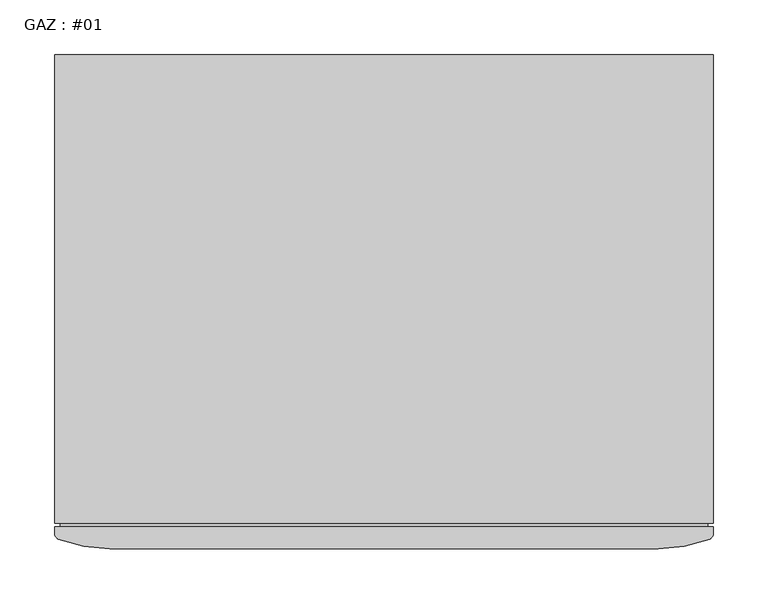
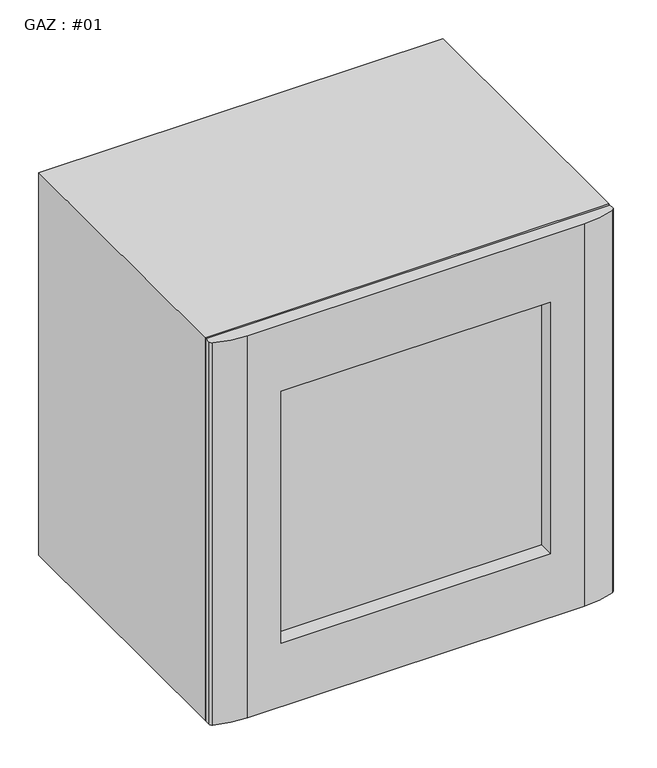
"""IFC4 building model written with IfcOpenShell, lengths in millimetres: proxy geometry, GAZ : #01."""

from ifc_helpers import new_model, si_unit, frame, origin, place, context, project, spatial, circle_curve, source, transform, mapped, element, save
from ifc_brep_helpers import plane_surface, cylinder_surface, advanced_brep


def gaz_01_622c0aa1(model_context):
    return source(origin(), model_context, "Body", "AdvancedBrep", [
        advanced_brep(
        [(300.0, 0.0, 600.0), (-300.0, 0.0, 600.0), (-300.0, -427.0, 600.0), (300.0, -427.0, 600.0), (-296.8, -441.2837994, 600.0), (-250.0, -450.0, 600.0), (250.0, -450.0, 600.0), (296.8, -441.2837994, 600.0), (300.0, -436.6190379, 600.0), (300.0, -430.0, 600.0), (-300.0, -430.0, 600.0), (-300.0, -436.6190379, 600.0), (-300.0, 0.0, 0.0), (300.0, 0.0, 0.0), (300.0, -427.0, 0.0), (-300.0, -427.0, 0.0), (-250.0, -450.0, 0.0), (-296.8, -441.2837994, 0.0), (-300.0, -436.6190379, 0.0), (-300.0, -430.0, 0.0), (300.0, -430.0, 0.0), (300.0, -436.6190379, 0.0), (296.8, -441.2837994, 0.0), (250.0, -450.0, 0.0), (200.0, -450.0, 100.0), (-200.0, -450.0, 100.0), (-200.0, -450.0, 495.0), (200.0, -450.0, 495.0), (295.0, -430.0, 595.0), (295.0, -430.0, 5.0), (295.0, -427.0, 5.0), (295.0, -427.0, 595.0), (-295.0, -430.0, 5.0), (-295.0, -427.0, 5.0), (-295.0, -430.0, 595.0), (-295.0, -427.0, 595.0), (-200.0, -427.0, 100.0), (200.0, -427.0, 100.0), (200.0, -427.0, 495.0), (-200.0, -427.0, 495.0)],
        [
            (0, 1),
            (1, 2),
            (2, 3),
            (3, 0),
            (4, 5, circle_curve(frame((-250.0, -320.0, 600.0), z_axis=(0.0, 0.0, 1.0), x_axis=(-1.0, 0.0, 0.0)), 130.0)),
            (5, 6),
            (6, 7, circle_curve(frame((250.0, -320.0, 600.0), z_axis=(0.0, 0.0, 1.0), x_axis=(1.0, 0.0, 0.0)), 130.0)),
            (7, 8, circle_curve(frame((295.0, -436.6190379, 600.0), z_axis=(0.0, 0.0, 1.0), x_axis=(1.0, 0.0, 0.0)), 5.0)),
            (8, 9),
            (9, 10),
            (10, 11),
            (11, 4, circle_curve(frame((-295.0, -436.6190379, 600.0), z_axis=(0.0, 0.0, 1.0), x_axis=(-1.0, 0.0, 0.0)), 5.0)),
            (12, 13),
            (13, 14),
            (14, 15),
            (15, 12),
            (16, 17, circle_curve(frame((-250.0, -320.0, 0.0), z_axis=(0.0, 0.0, -1.0), x_axis=(-1.0, 0.0, 0.0)), 130.0)),
            (17, 18, circle_curve(frame((-295.0, -436.6190379, 0.0), z_axis=(0.0, 0.0, -1.0), x_axis=(-1.0, 0.0, 0.0)), 5.0)),
            (18, 19),
            (19, 20),
            (20, 21),
            (21, 22, circle_curve(frame((295.0, -436.6190379, 0.0), z_axis=(0.0, 0.0, -1.0), x_axis=(1.0, 0.0, 0.0)), 5.0)),
            (22, 23, circle_curve(frame((250.0, -320.0, 0.0), z_axis=(0.0, 0.0, -1.0), x_axis=(1.0, 0.0, 0.0)), 130.0)),
            (23, 16),
            (0, 13),
            (12, 1),
            (15, 2),
            (18, 11),
            (10, 19),
            (5, 16),
            (23, 6),
            (24, 25),
            (25, 26),
            (26, 27),
            (27, 24),
            (3, 14),
            (8, 21),
            (20, 9),
            (4, 17),
            (22, 7),
            (28, 29),
            (29, 30),
            (30, 31),
            (31, 28),
            (29, 32),
            (32, 33),
            (33, 30),
            (32, 34),
            (34, 35),
            (35, 33),
            (35, 31),
            (34, 28),
            (36, 37),
            (37, 38),
            (38, 39),
            (39, 36),
            (36, 25),
            (24, 37),
            (27, 38),
            (26, 39),
        ],
        [
            plane_surface(frame((-300.0, 0.0, 600.0), z_axis=(0.0, 0.0, 1.0), x_axis=(-1.0, 0.0, 0.0))),
            plane_surface(frame((-300.0, 0.0, 0.0), z_axis=(0.0, 0.0, -1.0), x_axis=(1.0, 0.0, 0.0))),
            plane_surface(frame((300.0, 0.0, 600.0), z_axis=(0.0, 1.0, 0.0), x_axis=(0.0, 0.0, -1.0))),
            plane_surface(frame((-300.0, 0.0, 600.0), z_axis=(-1.0, 0.0, 0.0), x_axis=(0.0, 0.0, -1.0))),
            plane_surface(frame((-300.0, -450.0, 600.0), z_axis=(0.0, -1.0, 0.0), x_axis=(0.0, 0.0, -1.0))),
            plane_surface(frame((300.0, -450.0, 600.0), z_axis=(1.0, 0.0, 0.0), x_axis=(0.0, 0.0, -1.0))),
            cylinder_surface(frame((-250.0, -320.0, 600.0), z_axis=(0.0, 0.0, -1.0), x_axis=(-1.0, 0.0, 0.0)), 130.0),
            cylinder_surface(frame((-295.0, -436.6190379, 600.0), z_axis=(0.0, 0.0, -1.0), x_axis=(-1.0, 0.0, 0.0)), 5.0),
            cylinder_surface(frame((250.0, -320.0, 600.0), z_axis=(0.0, 0.0, -1.0), x_axis=(1.0, 0.0, 0.0)), 130.0),
            cylinder_surface(frame((295.0, -436.6190379, 600.0), z_axis=(0.0, 0.0, -1.0), x_axis=(1.0, 0.0, 0.0)), 5.0),
            plane_surface(frame((295.0, -427.0, 595.0), z_axis=(1.0, 0.0, 0.0), x_axis=(0.0, 0.0, -1.0))),
            plane_surface(frame((295.0, -427.0, 5.0), z_axis=(0.0, 0.0, -1.0), x_axis=(-1.0, 0.0, 0.0))),
            plane_surface(frame((-295.0, -427.0, 5.0), z_axis=(-1.0, 0.0, 0.0), x_axis=(0.0, 0.0, 1.0))),
            plane_surface(frame((-300.0, -427.0, 600.0), z_axis=(0.0, -1.0, 0.0), x_axis=(1.0, 0.0, 0.0))),
            plane_surface(frame((-295.0, -427.0, 595.0), z_axis=(0.0, 0.0, 1.0), x_axis=(1.0, 0.0, 0.0))),
            plane_surface(frame((-295.0, -430.0, 595.0), z_axis=(0.0, 1.0, 0.0), x_axis=(1.0, 0.0, 0.0))),
            plane_surface(frame((-200.0, -427.0, 100.0), z_axis=(0.0, -1.0, 0.0), x_axis=(-1.0, 0.0, 0.0))),
            plane_surface(frame((-200.0, -460.0, 100.0), z_axis=(0.0, 0.0, 1.0), x_axis=(0.0, 1.0, 0.0))),
            plane_surface(frame((200.0, -460.0, 100.0), z_axis=(-1.0, 0.0, 0.0), x_axis=(0.0, 1.0, 0.0))),
            plane_surface(frame((200.0, -460.0, 495.0), z_axis=(0.0, 0.0, -1.0), x_axis=(0.0, 1.0, 0.0))),
            plane_surface(frame((-200.0, -460.0, 495.0), z_axis=(1.0, 0.0, 0.0), x_axis=(0.0, 1.0, 0.0))),
        ],
        [
            (0, [[1, 2, 3, 4]]),
            (0, [[5, 6, 7, 8, 9, 10, 11, 12]]),
            (1, [[13, 14, 15, 16]]),
            (1, [[17, 18, 19, 20, 21, 22, 23, 24]]),
            (2, [[-1, 25, -13, 26]]),
            (3, [[-26, -16, 27, -2]]),
            (3, [[28, -11, 29, -19]]),
            (4, [[30, -24, 31, -6], [32, 33, 34, 35]]),
            (5, [[-25, -4, 36, -14]]),
            (5, [[37, -21, 38, -9]]),
            (6, [[39, -17, -30, -5]]),
            (7, [[-39, -12, -28, -18]]),
            (8, [[40, -7, -31, -23]]),
            (9, [[-40, -22, -37, -8]]),
            (10, [[41, 42, 43, 44]]),
            (11, [[-42, 45, 46, 47]]),
            (12, [[-46, 48, 49, 50]]),
            (13, [[-3, -27, -15, -36], [-43, -47, -50, 51]]),
            (14, [[-44, -51, -49, 52]]),
            (15, [[-10, -38, -20, -29], [-41, -52, -48, -45]]),
            (16, [[53, 54, 55, 56]]),
            (17, [[-53, 57, -32, 58]]),
            (18, [[-54, -58, -35, 59]]),
            (19, [[-55, -59, -34, 60]]),
            (20, [[-56, -60, -33, -57]]),
        ],
    ),
    ])


if __name__ == "__main__":
    model = new_model("IFC4")
    model_context = context("Model", 3, world=origin())
    ifc_project = project(units=[si_unit("LENGTHUNIT", "METRE", prefix="MILLI")], contexts=[model_context])
    site = spatial("IfcSite", under=ifc_project)
    building = spatial("IfcBuilding", under=site)
    placement = place(None, origin())
    gaz_01_shape = gaz_01_622c0aa1(model_context)
    element("IfcBuildingElementProxy", 1, Name="GAZ : #01", ObjectType="GAZ : #01", at=placement, inside=building, context=model_context, shape_type="MappedRepresentation", body=[
        mapped(gaz_01_shape, transform((0.0, 0.0, 0.0), x_axis=(1.0, 0.0, 0.0), y_axis=(0.0, 1.0, 0.0), z_axis=(0.0, 0.0, 1.0))),
    ])
    save(model, "model.ifc")
